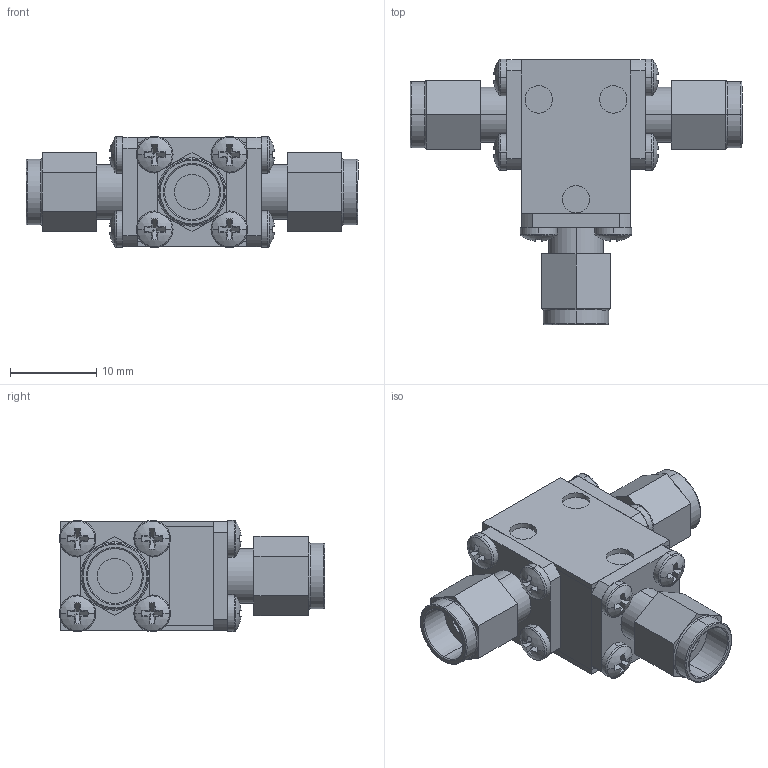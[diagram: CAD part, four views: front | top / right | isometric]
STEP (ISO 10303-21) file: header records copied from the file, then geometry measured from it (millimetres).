
FILE_DESCRIPTION (( 'STEP AP214' ), '1' );
FILE_NAME ('Package 5 Circ MMM.step', '2021-12-01T21:01:00', ( '' ), ( '' ), 'SwSTEP 2.0', 'SolidWorks 2016', '' );
FILE_SCHEMA (( 'AUTOMOTIVE_DESIGN' ));
Length unit declared in the file: inch
Products named in the file (5): Package 5; Package 5 Circ MMM; Package Size 5; Delta SMA-Male; pan cross head_ai_CR-PHMS 0.086-56x0.125x0.125-N
Assembly tree (17 placements, depth 2):
  Package 5 Circ MMM
    Package Size 5
    Package 5
    pan cross head_ai_CR-PHMS 0.086-56x0.125x0.125-N  x12
    Delta SMA-Male  x3
Bounding box: 38.46 x 30.75 x 12.88 mm (x, y, z)
Volume: 4728.6 mm3; surface area: 5826.4 mm2
Topology: 17 solids, 17 shells, 445 faces, 1014 edges, 624 vertices
Faces by surface type: plane 259, cylinder 120, torus 42, sphere 24
Entity records: 3248 total; most frequent: DIRECTION 584, CARTESIAN_POINT 504, ORIENTED_EDGE 472, EDGE_CURVE 236, AXIS2_PLACEMENT_3D 230, VERTEX_POINT 150, EDGE_LOOP 124, VECTOR 124
